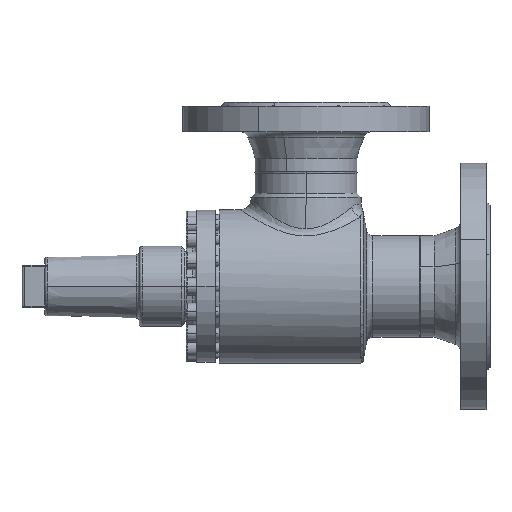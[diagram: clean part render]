
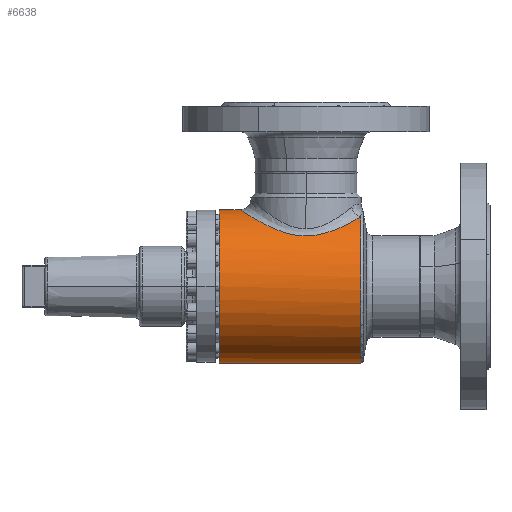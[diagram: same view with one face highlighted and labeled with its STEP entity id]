
A CAD part, left-side view. The second image highlights one B-rep face of the part: STEP entity #6638.
In plain terms, the highlighted cylindrical face has radius 57.5 mm (diameter 115 mm), a partial arc.
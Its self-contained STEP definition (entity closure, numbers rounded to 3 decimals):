
#41 = EDGE_CURVE ( 'NONE', #3715, #11936, #6332, .T. ) ;
#1002 = ORIENTED_EDGE ( 'NONE', *, *, #13834, .F. ) ;
#3715 = VERTEX_POINT ( 'NONE', #11516 ) ;
#4038 = ORIENTED_EDGE ( 'NONE', *, *, #12082, .T. ) ;
#4492 = EDGE_LOOP ( 'NONE', ( #1002, #6232, #10788, #4038, #14743 ) ) ;
#4512 = VERTEX_POINT ( 'NONE', #12176 ) ;
#6140 = EDGE_CURVE ( 'NONE', #13872, #7669, #13466, .T. ) ;
#6232 = ORIENTED_EDGE ( 'NONE', *, *, #6140, .T. ) ;
#6332 = CIRCLE ( 'NONE', #6333, 57.5 ) ;
#6333 = AXIS2_PLACEMENT_3D ( 'NONE', #6334, #6335, #6336 ) ;
#6334 = CARTESIAN_POINT ( 'NONE',  ( 0., 0., 0. ) ) ;
#6335 = DIRECTION ( 'NONE',  ( 0., 1., 0. ) ) ;
#6336 = DIRECTION ( 'NONE',  ( 0., 0., 1. ) ) ;
#6638 = ADVANCED_FACE ( 'NONE', ( #13777 ), #13778, .T. ) ;
#7669 = VERTEX_POINT ( 'NONE', #14495 ) ;
#8716 = EDGE_CURVE ( 'NONE', #7669, #4512, #15410, .T. ) ;
#10446 = CARTESIAN_POINT ( 'NONE',  ( 0., 0., 57.5 ) ) ;
#10528 = LINE ( 'NONE', #10529, #10530 ) ;
#10529 = CARTESIAN_POINT ( 'NONE',  ( 0., -111., 57.5 ) ) ;
#10530 = VECTOR ( 'NONE', #10531, 1000. ) ;
#10531 = DIRECTION ( 'NONE',  ( 0., 1., 0. ) ) ;
#10788 = ORIENTED_EDGE ( 'NONE', *, *, #8716, .T. ) ;
#11516 = CARTESIAN_POINT ( 'NONE',  ( 0., 0., -57.5 ) ) ;
#11912 = LINE ( 'NONE', #11913, #11914 ) ;
#11913 = CARTESIAN_POINT ( 'NONE',  ( 0., -111., -57.5 ) ) ;
#11914 = VECTOR ( 'NONE', #11915, 1000. ) ;
#11915 = DIRECTION ( 'NONE',  ( 0., 1., 0. ) ) ;
#11936 = VERTEX_POINT ( 'NONE', #10446 ) ;
#11958 = CARTESIAN_POINT ( 'NONE',  ( 0., -105.892, -57.5 ) ) ;
#12082 = EDGE_CURVE ( 'NONE', #4512, #11936, #10528, .T. ) ;
#12176 = CARTESIAN_POINT ( 'NONE',  ( 0., -15.7, 57.5 ) ) ;
#13466 = CIRCLE ( 'NONE', #13467, 57.5 ) ;
#13467 = AXIS2_PLACEMENT_3D ( 'NONE', #13468, #13469, #13470 ) ;
#13468 = CARTESIAN_POINT ( 'NONE',  ( 0., -105.892, 0. ) ) ;
#13469 = DIRECTION ( 'NONE',  ( 0., 1., 0. ) ) ;
#13470 = DIRECTION ( 'NONE',  ( 0., 0., -1. ) ) ;
#13777 = FACE_OUTER_BOUND ( 'NONE', #4492, .T. ) ;
#13778 = CYLINDRICAL_SURFACE ( 'NONE', #13779, 57.5 ) ;
#13779 = AXIS2_PLACEMENT_3D ( 'NONE', #13781, #13782, #13783 ) ;
#13781 = CARTESIAN_POINT ( 'NONE',  ( 0., -111., 0. ) ) ;
#13782 = DIRECTION ( 'NONE',  ( 0., 1., 0. ) ) ;
#13783 = DIRECTION ( 'NONE',  ( 0., 0., 1. ) ) ;
#13834 = EDGE_CURVE ( 'NONE', #13872, #3715, #11912, .T. ) ;
#13872 = VERTEX_POINT ( 'NONE', #11958 ) ;
#14495 = CARTESIAN_POINT ( 'NONE',  ( -24.174, -105.892, 52.171 ) ) ;
#14743 = ORIENTED_EDGE ( 'NONE', *, *, #41, .F. ) ;
#15410 = B_SPLINE_CURVE_WITH_KNOTS ( 'NONE', 3,
 ( #15411, #15413, #15414, #15415, #15416, #15417, #15418, #15419, #15420, #15421, #15422, #15423, #15424, #15425, #15426, #15427, #15428, #15429, #15430, #15431, #15432, #15433, #15434, #15435, #15436, #15437, #15438, #15439, #15440, #15441, #15442, #15443, #15444, #15446, #15447, #15448, #15449, #15450, #15451, #15452, #15453, #15454, #15455, #15456, #15457, #15458, #15459, #15460, #15461, #15465, #15466, #15467, #15468, #15469, #15470, #15471, #15472, #15473, #15474, #15475, #15476, #15477 ),
 .UNSPECIFIED., .F., .F.,
 ( 4, 2, 2, 2, 2, 2, 2, 2, 2, 2, 2, 2, 2, 2, 2, 2, 2, 2, 2, 2, 2, 2, 2, 2, 2, 2, 2, 2, 2, 2, 4 ),
 ( 0., 0.008, 0.016, 0.017, 0.019, 0.023, 0.031, 0.035, 0.039, 0.047, 0.049, 0.05, 0.054, 0.058, 0.06, 0.062, 0.07, 0.074, 0.078, 0.085, 0.089, 0.091, 0.093, 0.101, 0.105, 0.107, 0.109, 0.116, 0.118, 0.12, 0.124 ),
 .UNSPECIFIED. ) ;
#15411 = CARTESIAN_POINT ( 'NONE',  ( -24.174, -105.892, 52.171 ) ) ;
#15413 = CARTESIAN_POINT ( 'NONE',  ( -26.132, -104.39, 51.264 ) ) ;
#15414 = CARTESIAN_POINT ( 'NONE',  ( -27.915, -102.76, 50.305 ) ) ;
#15415 = CARTESIAN_POINT ( 'NONE',  ( -31.195, -99.268, 48.34 ) ) ;
#15416 = CARTESIAN_POINT ( 'NONE',  ( -32.691, -97.405, 47.333 ) ) ;
#15417 = CARTESIAN_POINT ( 'NONE',  ( -34.397, -94.927, 46.079 ) ) ;
#15418 = CARTESIAN_POINT ( 'NONE',  ( -34.73, -94.424, 45.829 ) ) ;
#15419 = CARTESIAN_POINT ( 'NONE',  ( -35.379, -93.402, 45.329 ) ) ;
#15420 = CARTESIAN_POINT ( 'NONE',  ( -35.695, -92.884, 45.08 ) ) ;
#15421 = CARTESIAN_POINT ( 'NONE',  ( -36.613, -91.317, 44.344 ) ) ;
#15422 = CARTESIAN_POINT ( 'NONE',  ( -37.186, -90.253, 43.863 ) ) ;
#15423 = CARTESIAN_POINT ( 'NONE',  ( -38.793, -86.998, 42.466 ) ) ;
#15424 = CARTESIAN_POINT ( 'NONE',  ( -39.716, -84.747, 41.594 ) ) ;
#15425 = CARTESIAN_POINT ( 'NONE',  ( -40.882, -81.225, 40.437 ) ) ;
#15426 = CARTESIAN_POINT ( 'NONE',  ( -41.234, -80.027, 40.077 ) ) ;
#15427 = CARTESIAN_POINT ( 'NONE',  ( -41.862, -77.576, 39.421 ) ) ;
#15428 = CARTESIAN_POINT ( 'NONE',  ( -42.138, -76.319, 39.125 ) ) ;
#15429 = CARTESIAN_POINT ( 'NONE',  ( -42.831, -72.529, 38.37 ) ) ;
#15430 = CARTESIAN_POINT ( 'NONE',  ( -43.12, -69.961, 38.038 ) ) ;
#15431 = CARTESIAN_POINT ( 'NONE',  ( -43.257, -66.692, 37.883 ) ) ;
#15432 = CARTESIAN_POINT ( 'NONE',  ( -43.273, -66.034, 37.864 ) ) ;
#15433 = CARTESIAN_POINT ( 'NONE',  ( -43.282, -64.718, 37.854 ) ) ;
#15434 = CARTESIAN_POINT ( 'NONE',  ( -43.275, -64.063, 37.862 ) ) ;
#15435 = CARTESIAN_POINT ( 'NONE',  ( -43.219, -62.103, 37.926 ) ) ;
#15436 = CARTESIAN_POINT ( 'NONE',  ( -43.137, -60.806, 38.02 ) ) ;
#15437 = CARTESIAN_POINT ( 'NONE',  ( -42.884, -58.229, 38.305 ) ) ;
#15438 = CARTESIAN_POINT ( 'NONE',  ( -42.713, -56.95, 38.496 ) ) ;
#15439 = CARTESIAN_POINT ( 'NONE',  ( -42.391, -55.043, 38.85 ) ) ;
#15440 = CARTESIAN_POINT ( 'NONE',  ( -42.272, -54.408, 38.979 ) ) ;
#15441 = CARTESIAN_POINT ( 'NONE',  ( -42.014, -53.15, 39.257 ) ) ;
#15442 = CARTESIAN_POINT ( 'NONE',  ( -41.875, -52.528, 39.406 ) ) ;
#15443 = CARTESIAN_POINT ( 'NONE',  ( -41.13, -49.446, 40.191 ) ) ;
#15444 = CARTESIAN_POINT ( 'NONE',  ( -40.378, -47.077, 40.957 ) ) ;
#15446 = CARTESIAN_POINT ( 'NONE',  ( -39.022, -43.642, 42.237 ) ) ;
#15447 = CARTESIAN_POINT ( 'NONE',  ( -38.532, -42.517, 42.685 ) ) ;
#15448 = CARTESIAN_POINT ( 'NONE',  ( -37.473, -40.304, 43.618 ) ) ;
#15449 = CARTESIAN_POINT ( 'NONE',  ( -36.908, -39.223, 44.098 ) ) ;
#15450 = CARTESIAN_POINT ( 'NONE',  ( -35.115, -36.073, 45.559 ) ) ;
#15451 = CARTESIAN_POINT ( 'NONE',  ( -33.785, -34.085, 46.562 ) ) ;
#15452 = CARTESIAN_POINT ( 'NONE',  ( -31.574, -31.259, 48.064 ) ) ;
#15453 = CARTESIAN_POINT ( 'NONE',  ( -30.801, -30.343, 48.564 ) ) ;
#15454 = CARTESIAN_POINT ( 'NONE',  ( -29.582, -29.009, 49.309 ) ) ;
#15455 = CARTESIAN_POINT ( 'NONE',  ( -29.166, -28.57, 49.557 ) ) ;
#15456 = CARTESIAN_POINT ( 'NONE',  ( -28.313, -27.708, 50.049 ) ) ;
#15457 = CARTESIAN_POINT ( 'NONE',  ( -27.875, -27.282, 50.294 ) ) ;
#15458 = CARTESIAN_POINT ( 'NONE',  ( -25.646, -25.201, 51.504 ) ) ;
#15459 = CARTESIAN_POINT ( 'NONE',  ( -23.737, -23.688, 52.419 ) ) ;
#15460 = CARTESIAN_POINT ( 'NONE',  ( -20.66, -21.659, 53.671 ) ) ;
#15461 = CARTESIAN_POINT ( 'NONE',  ( -19.599, -21.023, 54.069 ) ) ;
#15465 = CARTESIAN_POINT ( 'NONE',  ( -17.948, -20.134, 54.63 ) ) ;
#15466 = CARTESIAN_POINT ( 'NONE',  ( -17.388, -19.848, 54.811 ) ) ;
#15467 = CARTESIAN_POINT ( 'NONE',  ( -16.247, -19.3, 55.16 ) ) ;
#15468 = CARTESIAN_POINT ( 'NONE',  ( -15.665, -19.037, 55.328 ) ) ;
#15469 = CARTESIAN_POINT ( 'NONE',  ( -12.734, -17.796, 56.125 ) ) ;
#15470 = CARTESIAN_POINT ( 'NONE',  ( -10.302, -17.028, 56.627 ) ) ;
#15471 = CARTESIAN_POINT ( 'NONE',  ( -7.142, -16.371, 57.058 ) ) ;
#15472 = CARTESIAN_POINT ( 'NONE',  ( -6.505, -16.254, 57.135 ) ) ;
#15473 = CARTESIAN_POINT ( 'NONE',  ( -5.216, -16.054, 57.267 ) ) ;
#15474 = CARTESIAN_POINT ( 'NONE',  ( -4.563, -15.969, 57.322 ) ) ;
#15475 = CARTESIAN_POINT ( 'NONE',  ( -2.602, -15.766, 57.456 ) ) ;
#15476 = CARTESIAN_POINT ( 'NONE',  ( -1.298, -15.7, 57.5 ) ) ;
#15477 = CARTESIAN_POINT ( 'NONE',  ( 0., -15.7, 57.5 ) ) ;
